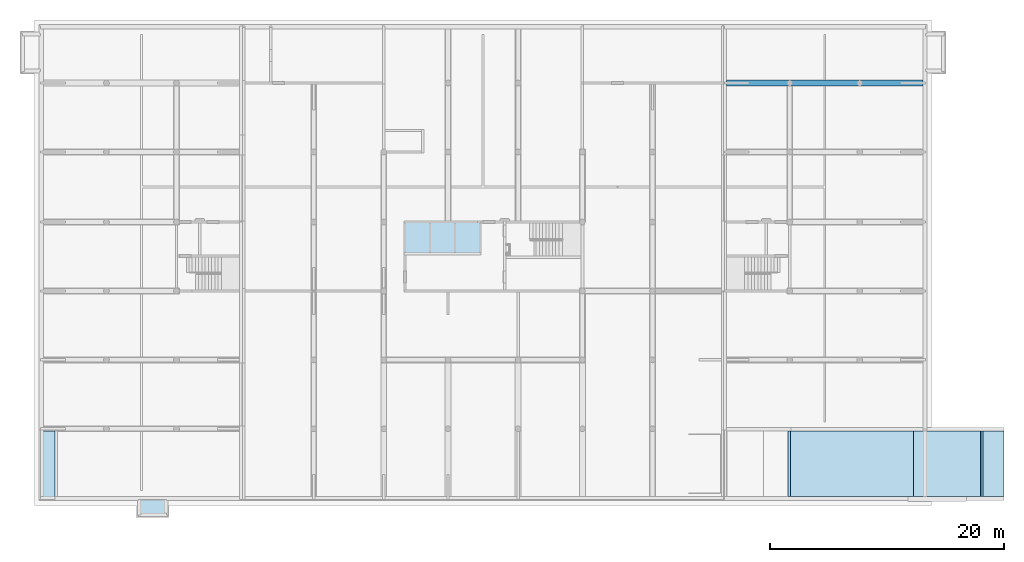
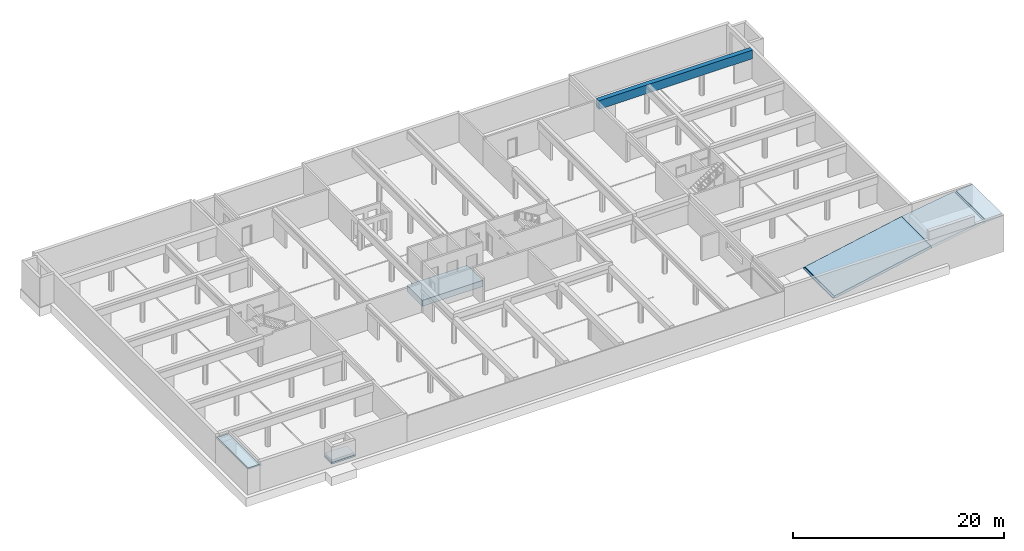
# One storey, part 13 of 25: 6 slabs, 1 beam.
"""IFC2X3 building model written with IfcOpenShell, lengths in millimetres."""

from ifc_helpers import new_model, entity, si_unit, converted_unit, derived_unit, money_unit, direction, frame, origin_with_axes, place, context, subcontext, project, spatial, faceted_brep, material, material_list, type_object, element, save


model = new_model("IFC2X3")

# Units and contexts
model_context = context("Model", 3, precision=0.01, world=origin_with_axes(), true_north=direction((0.34421633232, 0.938890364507)))
body_context = subcontext(model_context, "Body", "Model", "MODEL_VIEW")
ifc_project = project(units=[si_unit("LENGTHUNIT", "METRE", prefix="MILLI"), si_unit("AREAUNIT", "SQUARE_METRE"), si_unit("VOLUMEUNIT", "CUBIC_METRE"), converted_unit("PLANEANGLEUNIT", "DEGREE", entity("IfcPlaneAngleMeasure", 0.0174532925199), si_unit("PLANEANGLEUNIT", "RADIAN"), dimensions=[0, 0, 0, 0, 0, 0, 0]), si_unit("SOLIDANGLEUNIT", "STERADIAN"), money_unit("USD"), converted_unit("TIMEUNIT", "Year", entity("IfcTimeMeasure", 31556926.0), si_unit("TIMEUNIT", "SECOND"), dimensions=[0, 0, 1, 0, 0, 0, 0]), si_unit("MASSUNIT", "GRAM", prefix="KILO"), si_unit("THERMODYNAMICTEMPERATUREUNIT", "DEGREE_CELSIUS"), si_unit("LUMINOUSINTENSITYUNIT", "LUMEN"), si_unit("ENERGYUNIT", "JOULE", prefix="MEGA"), derived_unit("THERMALCONDUCTANCEUNIT", [(si_unit("POWERUNIT", "WATT"), 1), (si_unit("LENGTHUNIT", "METRE"), -1), (si_unit("THERMODYNAMICTEMPERATUREUNIT", "KELVIN"), -1)]), derived_unit("SPECIFICHEATCAPACITYUNIT", [(si_unit("ENERGYUNIT", "JOULE"), 1), (si_unit("MASSUNIT", "GRAM", prefix="KILO"), -1), (si_unit("THERMODYNAMICTEMPERATUREUNIT", "KELVIN"), -1)]), derived_unit("MASSDENSITYUNIT", [(si_unit("MASSUNIT", "GRAM", prefix="KILO"), 1), (si_unit("VOLUMEUNIT", "CUBIC_METRE"), -1)])], contexts=[model_context])

# Site, building, storey
site_placement = place(None, origin_with_axes())
site = spatial("IfcSite", under=ifc_project, at=site_placement, Name="USTRONIE MORSKIE", CompositionType="ELEMENT")
building_placement = place(site_placement, origin_with_axes())
building = spatial("IfcBuilding", under=site, at=building_placement, Name="Budynek", CompositionType="ELEMENT")
storey_placement = place(building_placement, frame((0.0, 0.0, -3600.0), z_axis=(0.0, 0.0, 1.0), x_axis=(1.0, 0.0, 0.0)))
storey = spatial("IfcBuildingStorey", under=building, at=storey_placement, Name="GARAZ", CompositionType="ELEMENT", Elevation=-3600.0)

# Beam
ifc_material_1 = material(Name="Beton konstrukcyjny 01")
beam_type = type_object("IfcBeamType", Name="Beton konstrukcyjny 01 500 x 1000", PredefinedType="NOTDEFINED")
beam_placement = place(storey_placement, frame((408667.920919, 744701.199036, 3370.00030619), z_axis=(0.0, 0.0, 1.0), x_axis=(0.0, -1.0, 0.0)))
element("IfcBeam", 1, at=beam_placement, inside=storey, type_object=beam_type, material=ifc_material_1, Name="B1", context=body_context, shape_type="Brep", body=[
    faceted_brep([(125.0, 11616.5063509, -1000.0), (85.5050358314, 11634.9231552, -1000.0), (43.4120444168, 11646.2019383, -1000.0), (0.0, 11650.0, -1000.0), (-43.4120444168, 11646.2019383, -1000.0), (-85.5050358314, 11634.9231552, -1000.0), (-125.0, 11616.5063509, -1000.0), (-160.696902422, 11591.5111108, -1000.0), (-191.51111078, 11560.6969024, -1000.0), (-216.506350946, 11525.0, -1000.0), (-234.923155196, 11485.5050358, -1000.0), (-246.201938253, 11443.4120444, -1000.0), (-250.0, 11400.0, -1000.0), (-250.0, 16800.0, -1000.0), (250.0, 16800.0, -1000.0), (250.0, 11400.0, -1000.0), (246.201938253, 11443.4120444, -1000.0), (234.923155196, 11485.5050358, -1000.0), (216.506350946, 11525.0, -1000.0), (191.51111078, 11560.6969024, -1000.0), (160.696902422, 11591.5111108, -1000.0), (85.5050358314, 11634.9231552, -190.000306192), (125.0, 11616.5063509, -190.000306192), (43.4120444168, 11646.2019383, -190.000306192), (0.0, 11650.0, -190.000306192), (-43.4120444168, 11646.2019383, -190.000306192), (-85.5050358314, 11634.9231552, -190.000306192), (-125.0, 11616.5063509, -190.000306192), (-160.696902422, 11591.5111108, -190.000306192), (-191.51111078, 11560.6969024, -190.000306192), (-216.506350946, 11525.0, -190.000306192), (-234.923155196, 11485.5050358, -190.000306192), (-246.201938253, 11443.4120444, -190.000306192), (-250.0, 11400.0, -190.000306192), (-250.0, 0.0, -1000.0), (-250.0, 0.0, 0.0), (-250.0, 16800.0, 0.0), (-250.0, 5400.0, -1000.0), (250.0, 16800.0, 0.0), (250.0, 0.0, 0.0), (250.0, 0.0, -1000.0), (250.0, 5400.0, -1000.0), (246.201938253, 11443.4120444, -190.000306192), (250.0, 11400.0, -190.000306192), (234.923155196, 11485.5050358, -190.000306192), (216.506350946, 11525.0, -190.000306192), (191.51111078, 11560.6969024, -190.000306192), (160.696902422, 11591.5111108, -190.000306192), (246.201938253, 11356.5879556, -190.000306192), (234.923155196, 11314.4949642, -190.000306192), (216.506350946, 11275.0, -190.000306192), (191.51111078, 11239.3030976, -190.000306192), (160.696902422, 11208.4888892, -190.000306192), (125.0, 11183.4936491, -190.000306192), (85.5050358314, 11165.0768448, -190.000306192), (43.4120444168, 11153.7980617, -190.000306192), (0.0, 11150.0, -190.000306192), (-43.4120444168, 11153.7980617, -190.000306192), (-85.5050358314, 11165.0768448, -190.000306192), (-125.0, 11183.4936491, -190.000306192), (-160.696902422, 11208.4888892, -190.000306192), (-191.51111078, 11239.3030976, -190.000306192), (-216.506350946, 11275.0, -190.000306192), (-234.923155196, 11314.4949642, -190.000306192), (-246.201938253, 11356.5879556, -190.000306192), (-246.201938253, 11356.5879556, -1000.0), (234.923155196, 11314.4949642, -1000.0), (246.201938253, 11356.5879556, -1000.0), (246.201938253, 5443.41204442, -1000.0), (234.923155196, 5485.50503583, -1000.0), (216.506350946, 5525.0, -1000.0), (191.51111078, 5560.69690242, -1000.0), (160.696902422, 5591.51111078, -1000.0), (125.0, 5616.50635095, -1000.0), (85.5050358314, 5634.9231552, -1000.0), (43.4120444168, 5646.20193825, -1000.0), (0.0, 5650.0, -1000.0), (-43.4120444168, 5646.20193825, -1000.0), (-85.5050358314, 5634.9231552, -1000.0), (-125.0, 5616.50635095, -1000.0), (-160.696902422, 5591.51111078, -1000.0), (-191.51111078, 5560.69690242, -1000.0), (-216.506350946, 5525.0, -1000.0), (-234.923155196, 5485.50503583, -1000.0), (-246.201938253, 5443.41204442, -1000.0), (-234.923155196, 11314.4949642, -1000.0), (-216.506350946, 11275.0, -1000.0), (-191.51111078, 11239.3030976, -1000.0), (-160.696902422, 11208.4888892, -1000.0), (-125.0, 11183.4936491, -1000.0), (-85.5050358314, 11165.0768448, -1000.0), (-43.4120444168, 11153.7980617, -1000.0), (0.0, 11150.0, -1000.0), (43.4120444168, 11153.7980617, -1000.0), (85.5050358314, 11165.0768448, -1000.0), (125.0, 11183.4936491, -1000.0), (160.696902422, 11208.4888892, -1000.0), (191.51111078, 11239.3030976, -1000.0), (216.506350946, 11275.0, -1000.0), (234.923155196, 5314.49496417, -1000.0), (246.201938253, 5356.58795558, -1000.0), (-246.201938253, 5356.58795558, -1000.0), (-234.923155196, 5314.49496417, -1000.0), (-216.506350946, 5275.0, -1000.0), (-191.51111078, 5239.30309758, -1000.0), (-160.696902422, 5208.48888922, -1000.0), (-125.0, 5183.49364905, -1000.0), (-85.5050358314, 5165.0768448, -1000.0), (-43.4120444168, 5153.79806175, -1000.0), (0.0, 5150.0, -1000.0), (43.4120444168, 5153.79806175, -1000.0), (85.5050358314, 5165.0768448, -1000.0), (125.0, 5183.49364905, -1000.0), (160.696902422, 5208.48888922, -1000.0), (191.51111078, 5239.30309758, -1000.0), (216.506350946, 5275.0, -1000.0), (246.201938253, 5443.41204442, -190.000306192), (250.0, 5400.0, -190.000306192), (234.923155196, 5485.50503583, -190.000306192), (216.506350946, 5525.0, -190.000306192), (191.51111078, 5560.69690242, -190.000306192), (160.696902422, 5591.51111078, -190.000306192), (125.0, 5616.50635095, -190.000306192), (85.5050358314, 5634.9231552, -190.000306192), (43.4120444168, 5646.20193825, -190.000306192), (0.0, 5650.0, -190.000306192), (-43.4120444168, 5646.20193825, -190.000306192), (-85.5050358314, 5634.9231552, -190.000306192), (-125.0, 5616.50635095, -190.000306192), (-160.696902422, 5591.51111078, -190.000306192), (-191.51111078, 5560.69690242, -190.000306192), (-216.506350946, 5525.0, -190.000306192), (-234.923155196, 5485.50503583, -190.000306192), (-246.201938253, 5443.41204442, -190.000306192), (-250.0, 5400.0, -190.000306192), (246.201938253, 5356.58795558, -190.000306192), (234.923155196, 5314.49496417, -190.000306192), (-246.201938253, 5356.58795558, -190.000306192), (-234.923155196, 5314.49496417, -190.000306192), (-216.506350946, 5275.0, -190.000306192), (-191.51111078, 5239.30309758, -190.000306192), (-160.696902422, 5208.48888922, -190.000306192), (-125.0, 5183.49364905, -190.000306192), (-85.5050358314, 5165.0768448, -190.000306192), (-43.4120444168, 5153.79806175, -190.000306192), (0.0, 5150.0, -190.000306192), (43.4120444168, 5153.79806175, -190.000306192), (85.5050358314, 5165.0768448, -190.000306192), (125.0, 5183.49364905, -190.000306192), (160.696902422, 5208.48888922, -190.000306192), (191.51111078, 5239.30309758, -190.000306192), (216.506350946, 5275.0, -190.000306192)], [[[0, 1, 2, 3, 4, 5, 6, 7, 8, 9, 10, 11, 12, 13, 14, 15, 16, 17, 18, 19, 20]], [[21, 1, 0, 22]], [[23, 2, 1, 21]], [[24, 3, 2, 23]], [[25, 4, 3, 24]], [[26, 5, 4, 25]], [[27, 6, 5, 26]], [[28, 7, 6, 27]], [[29, 8, 7, 28]], [[30, 9, 8, 29]], [[31, 10, 9, 30]], [[32, 11, 10, 31]], [[33, 12, 11, 32]], [[34, 35, 36, 13, 12, 37]], [[38, 14, 13, 36]], [[39, 40, 41, 15, 14, 38]], [[42, 16, 15, 43]], [[44, 17, 16, 42]], [[45, 18, 17, 44]], [[46, 19, 18, 45]], [[47, 20, 19, 46]], [[22, 0, 20, 47]], [[26, 25, 24, 23, 21, 22, 47, 46, 45, 44, 42, 43, 48, 49, 50, 51, 52, 53, 54, 55, 56, 57, 58, 59, 60, 61, 62, 63, 64, 33, 32, 31, 30, 29, 28, 27]], [[64, 65, 12, 33]], [[39, 35, 34, 40]], [[35, 39, 38, 36]], [[66, 67, 15, 41, 68, 69, 70, 71, 72, 73, 74, 75, 76, 77, 78, 79, 80, 81, 82, 83, 84, 37, 12, 65, 85, 86, 87, 88, 89, 90, 91, 92, 93, 94, 95, 96, 97, 98]], [[99, 100, 41, 40, 34, 37, 101, 102, 103, 104, 105, 106, 107, 108, 109, 110, 111, 112, 113, 114, 115]], [[43, 15, 67, 48]], [[48, 67, 66, 49]], [[49, 66, 98, 50]], [[50, 98, 97, 51]], [[51, 97, 96, 52]], [[52, 96, 95, 53]], [[53, 95, 94, 54]], [[54, 94, 93, 55]], [[55, 93, 92, 56]], [[56, 92, 91, 57]], [[57, 91, 90, 58]], [[58, 90, 89, 59]], [[59, 89, 88, 60]], [[60, 88, 87, 61]], [[61, 87, 86, 62]], [[62, 86, 85, 63]], [[63, 85, 65, 64]], [[116, 68, 41, 117]], [[118, 69, 68, 116]], [[119, 70, 69, 118]], [[120, 71, 70, 119]], [[121, 72, 71, 120]], [[122, 73, 72, 121]], [[123, 74, 73, 122]], [[124, 75, 74, 123]], [[125, 76, 75, 124]], [[126, 77, 76, 125]], [[127, 78, 77, 126]], [[128, 79, 78, 127]], [[129, 80, 79, 128]], [[130, 81, 80, 129]], [[131, 82, 81, 130]], [[132, 83, 82, 131]], [[133, 84, 83, 132]], [[134, 37, 84, 133]], [[135, 100, 99, 136]], [[117, 41, 100, 135]], [[137, 101, 37, 134]], [[138, 102, 101, 137]], [[139, 103, 102, 138]], [[140, 104, 103, 139]], [[141, 105, 104, 140]], [[142, 106, 105, 141]], [[143, 107, 106, 142]], [[144, 108, 107, 143]], [[145, 109, 108, 144]], [[146, 110, 109, 145]], [[147, 111, 110, 146]], [[148, 112, 111, 147]], [[149, 113, 112, 148]], [[150, 114, 113, 149]], [[151, 115, 114, 150]], [[136, 99, 115, 151]], [[146, 145, 144, 143, 142, 141, 140, 139, 138, 137, 134, 133, 132, 131, 130, 129, 128, 127, 126, 125, 124, 123, 122, 121, 120, 119, 118, 116, 117, 135, 136, 151, 150, 149, 148, 147]]]),
])

# Slabs
ifc_material_2 = material(Name="---- OKŁADZINY WEW -----------")
ifc_material_3 = material(Name="Beton konstrukcyjny B25")
ifc_material_list_1 = material_list([ifc_material_2, ifc_material_3])
slab_type_1 = type_object("IfcSlabType", Name="500-PS ---- PODŁOGI STROPY ----------------- 300", PredefinedType="ROOF")
slab_1_placement = place(storey_placement, frame((418840.678735, 714891.494357, 2053.36426941), z_axis=(0.0, 0.0, 1.0), x_axis=(0.0, -1.0, 0.0)))
element("IfcSlab", 2, at=slab_1_placement, inside=storey, type_object=slab_type_1, material=ifc_material_list_1, Name="DA3", PredefinedType="ROOF", context=body_context, shape_type="Brep", body=[
    faceted_brep([(-9.70467880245, 11580.9335351, 1169.41258192), (-9.70467880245, 11588.4140035, 1069.69276147), (-9.70467880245, 11577.2421838, 1169.13573059), (5590.2953212, 11588.4140035, 1069.69276147), (5590.2953212, 11580.9335351, 1169.41258192), (5590.2953212, 11577.2421838, 1169.13573059)], [[[0, 1, 2]], [[3, 1, 0, 4]], [[1, 3, 5, 2]], [[4, 0, 2, 5]], [[3, 4, 5]]]),
    faceted_brep([(-9.70467880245, 11787.8536444, 1084.65369827), (-9.70467880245, 11787.8536444, 1184.93159013), (-9.70467880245, 13577.2421838, 1319.13573059), (-9.70467885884, 13577.2421839, 1218.85487499), (5590.2953212, 11787.8536444, 1184.93159013), (5590.2953212, 11787.8536444, 1084.65369827), (5590.2953212, 13577.2421838, 1319.13573059), (5590.29532133, 13577.2421839, 1218.85487499)], [[[0, 1, 2, 3]], [[4, 1, 0, 5]], [[1, 4, 6, 2]], [[6, 7, 3, 2]], [[5, 0, 3, 7]], [[4, 5, 7, 6]]]),
    faceted_brep([(5590.29532159, 11610.7576425, 870.806823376), (5590.29532133, 11588.4140034, 1069.69276145), (-9.70467885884, 11588.4140034, 1069.69276145), (-9.70467897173, 11610.7576425, 870.806823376), (5590.29532159, 13577.2421842, 1018.293164), (5590.29532133, 13577.2421839, 1218.85487499), (-9.70467885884, 13577.2421839, 1218.85487499), (-9.70467897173, 13577.2421842, 1018.293164)], [[[0, 1, 2, 3]], [[4, 5, 1, 0]], [[6, 2, 1, 5]], [[3, 2, 6, 7]], [[4, 0, 3, 7]], [[7, 6, 5, 4]]]),
])
slab_2_placement = place(storey_placement, frame((413090.678735, 714891.494357, 320.05744619), z_axis=(0.0, 0.0, 1.0), x_axis=(0.0, -1.0, 0.0)))
element("IfcSlab", 3, at=slab_2_placement, inside=storey, type_object=slab_type_1, material=ifc_material_list_1, Name="DA3", PredefinedType="ROOF", context=body_context, shape_type="Brep", body=[
    faceted_brep([(5590.2953212, 11577.2421838, 2039.94255381), (5590.2953212, 17327.2421838, 2902.44255381), (-9.70467880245, 17327.2421838, 2902.44255381), (-9.70467880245, 11577.2421838, 2039.94255381), (5590.29532133, 11594.4751475, 1941.40875629), (5590.29532133, 17338.4140036, 2802.99958471), (-9.70467885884, 17338.4140036, 2802.99958471), (-9.70467885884, 11594.4751475, 1941.40875629)], [[[0, 1, 2, 3]], [[0, 4, 5, 1]], [[1, 5, 6, 2]], [[2, 6, 7, 3]], [[3, 7, 4, 0]], [[4, 7, 6, 5]]]),
    faceted_brep([(-9.70467885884, 11594.4751475, 1941.40875629), (-9.70467897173, 11628.941075, 1744.34116144), (5590.29532159, 11628.941075, 1744.34116144), (5590.29532133, 11594.4751475, 1941.40875629), (-9.70467885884, 17338.4140036, 2802.99958471), (-9.70467897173, 17360.7576434, 2604.11364669), (5590.29532159, 17360.7576434, 2604.11364669), (5590.29532133, 17338.4140036, 2802.99958471)], [[[0, 1, 2, 3]], [[4, 5, 1, 0]], [[1, 5, 6, 2]], [[3, 2, 6, 7]], [[3, 7, 4, 0]], [[7, 6, 5, 4]]]),
])
slab_3_placement = place(storey_placement, frame((412778.772437, 714891.494357, -323.770867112), z_axis=(0.0, 0.0, 1.0), x_axis=(0.0, -1.0, 0.0)))
element("IfcSlab", 4, at=slab_3_placement, inside=storey, type_object=slab_type_1, material=ifc_material_list_1, Name="DA3", PredefinedType="ROOF", context=body_context, shape_type="Brep", body=[
    faceted_brep([(0.295321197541, 1122.48181481, 530.437533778), (0.295321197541, 1338.20963281, 573.583097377), (5590.2953212, 1338.20963281, 573.583097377), (5590.2953212, 11889.1484815, 2683.77086711), (-9.70467880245, 11889.1484815, 2683.77086711), (-9.70467880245, 1122.48181481, 530.437533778), (0.295321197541, 1142.09354389, 432.379489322), (0.295321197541, 1338.20963281, 471.602947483), (5590.2953212, 1338.20963281, 471.602947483), (5590.29532133, 11906.3814454, 2585.23706963), (-9.70467885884, 11906.3814454, 2585.23706963), (-9.70467885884, 1137.29815553, 431.42041165), (5590.2953212, 1122.48181481, 530.437533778), (5590.29532133, 1137.29815553, 431.42041165), (5590.2953212, 1142.09354389, 432.379489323)], [[[0, 1, 2, 3, 4, 5]], [[0, 6, 7, 1]], [[2, 1, 7, 8]], [[2, 8, 9, 3]], [[4, 3, 9, 10]], [[5, 4, 10, 11]], [[12, 0, 5, 11, 13]], [[14, 6, 0, 12]], [[6, 14, 13, 11, 10, 9, 8, 7]], [[14, 12, 13]]]),
    faceted_brep([(5590.2953212, 1618.85433461, 323.770867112), (-9.70467880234, 1618.85433461, 323.770867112), (-9.70467897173, 11940.8473733, 2388.16947485), (5590.29532159, 11940.8473733, 2388.16947485), (-9.70467880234, 1153.40620125, 323.770867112), (5590.2953212, 1153.40620125, 323.770867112), (-9.70467885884, 1137.29815553, 431.42041165), (-9.70467885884, 11906.3814454, 2585.23706963), (5590.29532133, 11906.3814454, 2585.23706963), (5590.29532133, 1137.29815553, 431.42041165)], [[[0, 1, 2, 3]], [[4, 1, 0, 5]], [[1, 4, 6, 7, 2]], [[2, 7, 8, 3]], [[5, 0, 3, 8, 9]], [[4, 5, 9, 6]], [[7, 6, 9, 8]]]),
])
slab_type_2 = type_object("IfcSlabType", Name="Beton konstrukcyjny B25 200", PredefinedType="FLOOR")
slab_4_placement = place(storey_placement, frame((349917.920919, 709051.199033, 3020.0), z_axis=(0.0, 0.0, 1.0), x_axis=(1.0, 0.0, 0.0)))
element("IfcSlab", 5, at=slab_4_placement, inside=storey, type_object=slab_type_2, material=ifc_material_3, Name="P2", PredefinedType="FLOOR", context=body_context, shape_type="Brep", body=[
    faceted_brep([(1450.0, 0.0, -200.0), (1450.0, 250.000003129, -200.000028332), (1450.0, 250.000003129, 0.0), (1450.0, 0.0, 0.0), (1250.0, 5850.00000268, -200.000028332), (1250.0, 250.000003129, -200.000028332), (0.0, 0.0, -200.0), (0.0, 5950.00000313, -200.0), (250.0, 5950.00000313, -200.0), (250.0, 5850.00000179, -200.0), (1250.0, 250.000003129, 0.0), (1250.0, 5850.00000149, 0.0), (250.0, 5850.00000119, 0.0), (250.0, 5950.00000313, 0.0), (0.0, 5950.00000313, 0.0), (0.0, 0.0, 0.0)], [[[0, 1, 2, 3]], [[4, 5, 1, 0, 6, 7, 8, 9]], [[5, 10, 2, 1]], [[2, 10, 11, 12, 13, 14, 15, 3]], [[0, 3, 15, 6]], [[5, 4, 11, 10]], [[6, 15, 14, 7]], [[14, 13, 8, 7]], [[9, 8, 13, 12]], [[12, 11, 4, 9]]]),
])
ifc_material_4 = material(Name="Płyty styropianowe twarde")
ifc_material_5 = material(Name="Żwir")
ifc_material_list_2 = material_list([ifc_material_1, ifc_material_4, ifc_material_5])
slab_type_3 = type_object("IfcSlabType", Name="541-PS PODŁOGA NA GRUNCIE WINDA 700", PredefinedType="FLOOR")
slab_5_placement = place(storey_placement, frame((381037.920919, 729991.199036, -1220.0), z_axis=(0.0, 0.0, 1.0), x_axis=(1.0, 0.0, 0.0)))
element("IfcSlab", 6, at=slab_5_placement, inside=storey, type_object=slab_type_3, material=ifc_material_list_2, Name="P3", PredefinedType="FLOOR", context=body_context, shape_type="Brep", body=[
    faceted_brep([(6620.0, 0.0, -500.0), (6620.0, 0.0, 0.0), (0.0, 0.0, 0.0), (0.0, 0.0, -500.0), (6620.0, 2910.0, -500.0), (6620.0, 2910.0, 0.0), (0.0, 2910.0, 0.0), (0.0, 2910.0, -500.0)], [[[0, 1, 2, 3]], [[4, 5, 1, 0]], [[2, 1, 5, 6]], [[3, 2, 6, 7]], [[3, 7, 4, 0]], [[7, 6, 5, 4]]]),
    faceted_brep([(6620.0, 0.0, -600.0), (6620.0, 0.0, -500.0), (0.0, 0.0, -500.0), (0.0, 0.0, -600.0), (6620.0, 2910.0, -600.0), (6620.0, 2910.0, -500.0), (0.0, 2910.0, -500.0), (0.0, 2910.0, -600.0)], [[[0, 1, 2, 3]], [[4, 5, 1, 0]], [[2, 1, 5, 6]], [[3, 2, 6, 7]], [[3, 7, 4, 0]], [[7, 6, 5, 4]]]),
    faceted_brep([(0.0, 0.0, -700.0), (6620.0, 0.0, -700.0), (6620.0, 0.0, -600.0), (0.0, 0.0, -600.0), (0.0, 2910.0, -700.0), (6620.0, 2910.0, -700.0), (6620.0, 2910.0, -600.0), (0.0, 2910.0, -600.0)], [[[0, 1, 2, 3]], [[0, 4, 5, 1]], [[1, 5, 6, 2]], [[3, 2, 6, 7]], [[4, 0, 3, 7]], [[5, 4, 7, 6]]]),
])
slab_type_4 = type_object("IfcSlabType", Name="541-PS PODŁOGA TECHN. KANAŁY 400", PredefinedType="FLOOR")
slab_6_placement = place(storey_placement, frame((358217.920919, 707601.199036, 1820.00030396), z_axis=(0.0, 0.0, 1.0), x_axis=(1.0, 0.0, 0.0)))
element("IfcSlab", 7, at=slab_6_placement, inside=storey, type_object=slab_type_4, material=ifc_material_list_2, Name="P1", PredefinedType="FLOOR", context=body_context, shape_type="Brep", body=[
    faceted_brep([(2500.0, 99.9999999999, 0.0), (2500.0, 1350.0, 0.0), (2500.0, 1450.00000396, 0.0), (100.0, 1450.00000396, 0.0), (100.0, 1350.0, 0.0), (100.0, 99.9999999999, 0.0), (2500.0, 99.9999999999, -200.000303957), (2500.0, 1450.00000447, -200.000303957), (100.0, 1450.00000447, -200.000303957), (100.0, 99.9999999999, -200.000303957), (100.0, 1350.0, -200.000303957)], [[[0, 1, 2, 3, 4, 5]], [[1, 0, 6, 7, 2]], [[2, 7, 8, 3]], [[9, 5, 4, 3, 8, 10]], [[6, 0, 5, 9]], [[6, 9, 10, 8, 7]]]),
    faceted_brep([(2600.0, 1340.0, -300.0), (2600.0, 1340.0, -200.000303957), (2600.0, 0.0, -200.0), (2600.0, 0.0, -300.0), (2300.0, 1340.0, -200.000303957), (2300.0, 1340.0, -300.0), (2300.0, 1349.99999851, -200.000303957), (300.0, 1349.99999851, -200.000303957), (100.0, 1349.99999851, -200.000303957), (100.0, 1340.0, -200.000303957), (0.0, 1340.0, -200.000303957), (0.0, 0.0, -200.0), (0.0, 0.0, -300.0), (0.0, 1340.0, -300.0), (100.0, 1340.0, -300.0), (100.0, 1349.99999851, -300.0), (2300.0, 1349.99999851, -300.0)], [[[0, 1, 2, 3]], [[4, 1, 0, 5]], [[4, 6, 7, 8, 9, 10, 11, 2, 1]], [[12, 3, 2, 11]], [[5, 0, 3, 12, 13, 14, 15, 16]], [[16, 6, 4, 5]], [[6, 16, 15, 8, 7]], [[9, 8, 15, 14]], [[10, 9, 14, 13]], [[10, 13, 12, 11]]]),
    faceted_brep([(2600.0, 1340.0, -400.0), (2600.0, 1340.0, -300.0), (2600.0, 0.0, -300.0), (2600.0, 0.0, -400.0), (0.0, 1340.0, -300.0), (0.0, 1340.0, -400.0), (0.0, 0.0, -300.0), (0.0, 0.0, -400.0)], [[[0, 1, 2, 3]], [[4, 1, 0, 5]], [[1, 4, 6, 2]], [[6, 7, 3, 2]], [[5, 0, 3, 7]], [[4, 5, 7, 6]]]),
])

save(model, "model.ifc")
